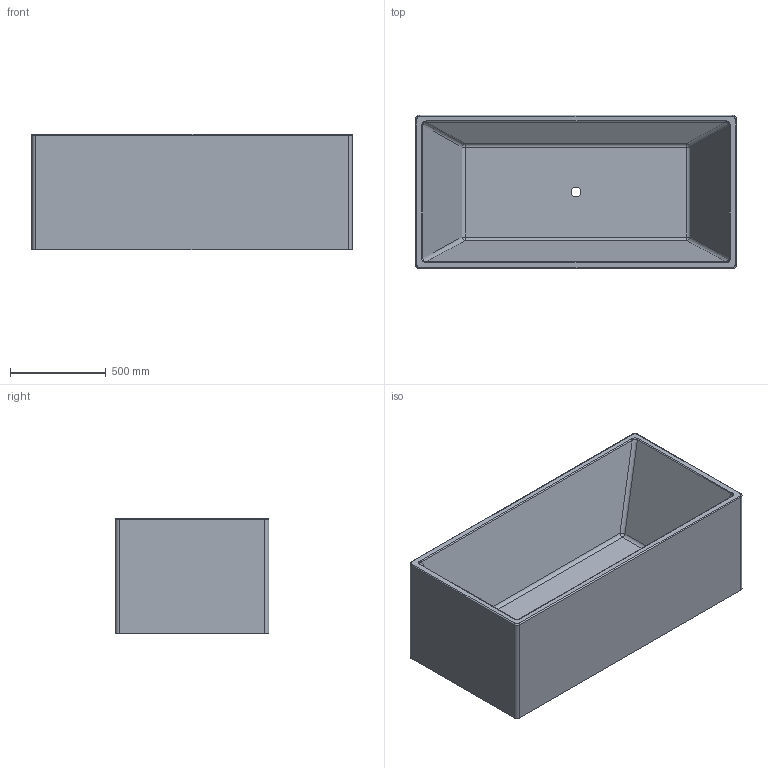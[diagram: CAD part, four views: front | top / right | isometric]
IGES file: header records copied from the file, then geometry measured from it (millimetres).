
Start section: START RECORD GO HERE.
Global section: file name: 8965_3D.igs; native system: DASSAULT SYSTEMES CATIA V5 R19 - www.3ds.com; preprocessor: CATIA Version 5 Release 19 SP 5 ; author: gioge; organization: LAPTOP-G94B6G74; date: 20201024.132604; units: millimetre
Bounding box: 1670 x 800 x 600 mm (x, y, z)
Surface area: 5592988.2 mm2 (no closed solid volume)
Topology: 0 solids, 0 shells, 42 faces, 178 edges, 178 vertices
Faces by surface type: revolution 24, bspline 12, plane 6
